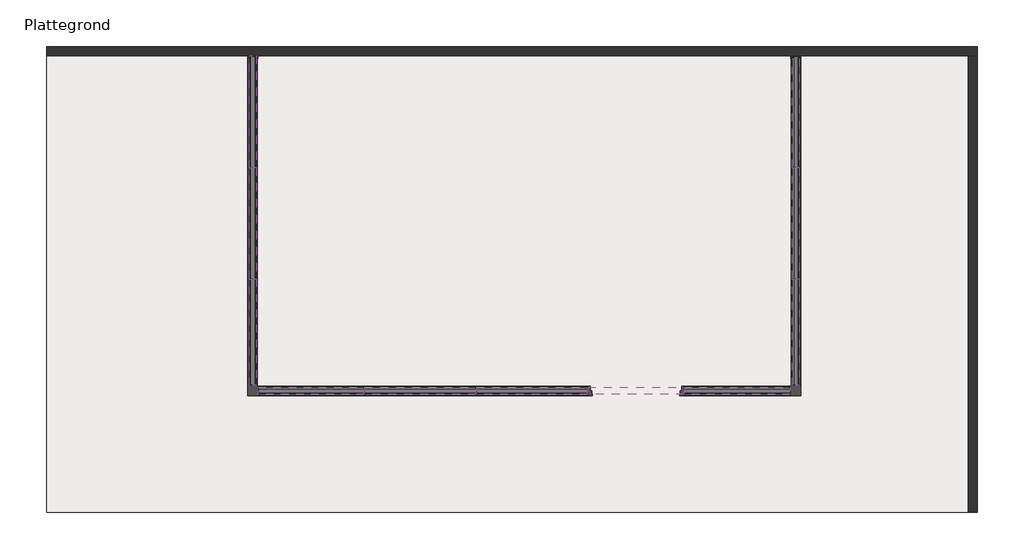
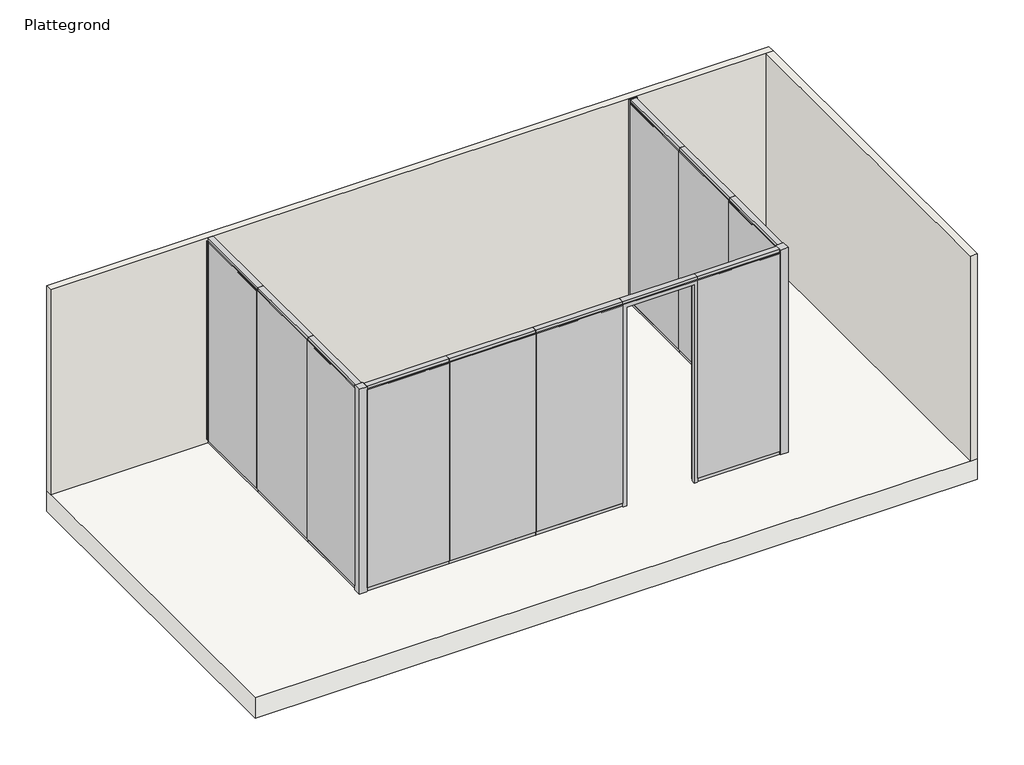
# One storey, incomplete: 26 members, 10 plates, 2 walls, 1 slab.
"""IFC4 building model written with IfcOpenShell, lengths in millimetres."""

from ifc_helpers import new_model, si_unit, frame, origin, origin_with_axes, place, context, project, spatial, polyline, outline, extrude, faceted_brep, transform, mapped, element, save
from components import member_d9187866, l_corner_mullion_85c57a4c, rectangular_mullion_8564558c, rectangular_mullion_b505394f, rectangular_mullion_e6aad3cd, rectangular_mullion_594e154f, rectangular_mullion_8b4171a3, rectangular_mullion_1f58b8ce, rectangular_mullion_43599745, rectangular_mullion_d537f7af, plate_3d1d3679, plate_2d0721b2, plate_4faec389

model = new_model("IFC4")

# Units and contexts
model_context = context("Model", 3, world=origin())
ifc_project = project(units=[si_unit("LENGTHUNIT", "METRE", prefix="MILLI")], contexts=[model_context])

# Site, building, storey
site = spatial("IfcSite", under=ifc_project)
building = spatial("IfcBuilding", under=site)
storey = spatial("IfcBuildingStorey", under=building, Name="Plattegrond", Elevation=0.0)

# Members
placement = place(None, origin())
member_shape = member_d9187866(model_context)
element("IfcMember", 1, ObjectType="32_IM_005_WDI_deurkozijn : 32_IM_005_WDI_deurkozijn", at=placement, inside=storey, context=model_context, shape_type="MappedRepresentation", body=[
    mapped(member_shape, transform((6171.9771241, 1527.5863222, 1480.0), x_axis=(0.0, 0.0, -1.0), y_axis=(1.0, 0.0, 0.0), z_axis=(0.0, -1.0, 0.0))),
])
l_corner_mullion_shape = l_corner_mullion_85c57a4c(model_context)
element("IfcMember", 2, ObjectType="L Corner Mullion : 22_IM_VNS_54_HOEK", at=placement, inside=storey, context=model_context, shape_type="MappedRepresentation", body=[
    mapped(l_corner_mullion_shape, transform((2053.9771241, 1527.5863222, 0.0), x_axis=(0.0, -1.0, 0.0), y_axis=(-1.0, 0.0, 0.0), z_axis=(0.0, 0.0, -1.0))),
])
element("IfcMember", 3, ObjectType="L Corner Mullion : 22_IM_VNS_54_HOEK", at=placement, inside=storey, context=model_context, shape_type="MappedRepresentation", body=[
    mapped(l_corner_mullion_shape, transform((7889.9771241, 1527.5863222, 0.0), x_axis=(1.0, 0.0, 0.0), y_axis=(0.0, -1.0, 0.0), z_axis=(0.0, 0.0, -1.0))),
])
rectangular_mullion_shape = rectangular_mullion_8564558c(model_context)
element("IfcMember", 4, ObjectType="Rectangular Mullion : 22_IM_VNS_DET1_boven", at=placement, inside=storey, context=model_context, shape_type="MappedRepresentation", body=[
    mapped(rectangular_mullion_shape, transform((2053.9771241, 3927.5863222, 3000.0), x_axis=(0.0, 0.0, 1.0), y_axis=(-1.0, 0.0, 0.0), z_axis=(0.0, -1.0, 0.0))),
])
element("IfcMember", 5, ObjectType="Rectangular Mullion : 22_IM_VNS_DET1_boven", at=placement, inside=storey, context=model_context, shape_type="MappedRepresentation", body=[
    mapped(rectangular_mullion_shape, transform((2053.9771241, 2727.5863222, 3000.0), x_axis=(0.0, 0.0, 1.0), y_axis=(-1.0, 0.0, 0.0), z_axis=(0.0, -1.0, 0.0))),
])
element("IfcMember", 6, ObjectType="Rectangular Mullion : 22_IM_VNS_DET1_boven", at=placement, inside=storey, context=model_context, shape_type="MappedRepresentation", body=[
    mapped(rectangular_mullion_shape, transform((4453.9771241, 1527.5863222, 3000.0), x_axis=(0.0, 0.0, 1.0), y_axis=(0.0, -1.0, 0.0), z_axis=(1.0, 0.0, 0.0))),
])
element("IfcMember", 7, ObjectType="Rectangular Mullion : 22_IM_VNS_DET1_boven", at=placement, inside=storey, context=model_context, shape_type="MappedRepresentation", body=[
    mapped(rectangular_mullion_shape, transform((5653.9771241, 1527.5863222, 3000.0), x_axis=(0.0, 0.0, 1.0), y_axis=(0.0, -1.0, 0.0), z_axis=(1.0, 0.0, 0.0))),
])
element("IfcMember", 8, ObjectType="Rectangular Mullion : 22_IM_VNS_DET1_boven", at=placement, inside=storey, context=model_context, shape_type="MappedRepresentation", body=[
    mapped(rectangular_mullion_shape, transform((7889.9771241, 3927.5863222, 3000.0), x_axis=(0.0, 0.0, 1.0), y_axis=(1.0, 0.0, 0.0), z_axis=(0.0, 1.0, 0.0))),
])
rectangular_mullion_2_shape = rectangular_mullion_b505394f(model_context)
element("IfcMember", 9, ObjectType="Rectangular Mullion : 22_IM_VNS_DET2_onder", at=placement, inside=storey, context=model_context, shape_type="MappedRepresentation", body=[
    mapped(rectangular_mullion_2_shape, transform((2053.9771241, 5127.5863222, 0.0), x_axis=(0.0, 0.0, -1.0), y_axis=(-1.0, 0.0, 0.0), z_axis=(0.0, 1.0, 0.0))),
])
element("IfcMember", 10, ObjectType="Rectangular Mullion : 22_IM_VNS_DET2_onder", at=placement, inside=storey, context=model_context, shape_type="MappedRepresentation", body=[
    mapped(rectangular_mullion_2_shape, transform((7889.9771241, 1527.5863222, 0.0), x_axis=(0.0, 0.0, -1.0), y_axis=(1.0, 0.0, 0.0), z_axis=(0.0, -1.0, 0.0))),
])
element("IfcMember", 11, ObjectType="Rectangular Mullion : 22_IM_VNS_DET2_onder", at=placement, inside=storey, context=model_context, shape_type="MappedRepresentation", body=[
    mapped(rectangular_mullion_2_shape, transform((2053.9771241, 3927.5863222, 0.0), x_axis=(0.0, 0.0, -1.0), y_axis=(-1.0, 0.0, 0.0), z_axis=(0.0, 1.0, 0.0))),
])
element("IfcMember", 12, ObjectType="Rectangular Mullion : 22_IM_VNS_DET2_onder", at=placement, inside=storey, context=model_context, shape_type="MappedRepresentation", body=[
    mapped(rectangular_mullion_2_shape, transform((3253.9771241, 1527.5863222, 0.0), x_axis=(0.0, 0.0, -1.0), y_axis=(0.0, -1.0, 0.0), z_axis=(-1.0, 0.0, 0.0))),
])
element("IfcMember", 13, ObjectType="Rectangular Mullion : 22_IM_VNS_DET2_onder", at=placement, inside=storey, context=model_context, shape_type="MappedRepresentation", body=[
    mapped(rectangular_mullion_2_shape, transform((7889.9771241, 2727.5863222, 0.0), x_axis=(0.0, 0.0, -1.0), y_axis=(1.0, 0.0, 0.0), z_axis=(0.0, -1.0, 0.0))),
])
rectangular_mullion_3_shape = rectangular_mullion_e6aad3cd(model_context)
element("IfcMember", 14, ObjectType="Rectangular Mullion : 22_IM_VNS_54_MAS_sp", at=placement, inside=storey, context=model_context, shape_type="MappedRepresentation", body=[
    mapped(rectangular_mullion_3_shape, transform((2053.9771241, 5127.5863222, 2960.0), x_axis=(0.0, 1.0, 0.0), y_axis=(-1.0, 0.0, 0.0), z_axis=(0.0, 0.0, 1.0))),
])
rectangular_mullion_4_shape = rectangular_mullion_594e154f(model_context)
element("IfcMember", 15, ObjectType="Rectangular Mullion : 22_IM_VNS_DET1_boven", at=placement, inside=storey, context=model_context, shape_type="MappedRepresentation", body=[
    mapped(rectangular_mullion_4_shape, transform((6689.9771241, 1527.5863222, 3000.0), x_axis=(0.0, 0.0, 1.0), y_axis=(0.0, -1.0, 0.0), z_axis=(1.0, 0.0, 0.0))),
])
element("IfcMember", 16, ObjectType="Rectangular Mullion : 22_IM_VNS_DET2_onder", at=placement, inside=storey, context=model_context, shape_type="MappedRepresentation", body=[
    mapped(rectangular_mullion_2_shape, transform((4453.9771241, 1527.5863222, 0.0), x_axis=(0.0, 0.0, -1.0), y_axis=(0.0, -1.0, 0.0), z_axis=(-1.0, 0.0, 0.0))),
])
rectangular_mullion_5_shape = rectangular_mullion_8b4171a3(model_context)
element("IfcMember", 17, ObjectType="Rectangular Mullion : 22_IM_VNS_DET1_boven", at=placement, inside=storey, context=model_context, shape_type="MappedRepresentation", body=[
    mapped(rectangular_mullion_5_shape, transform((7889.9771241, 5095.5863222, 3000.0), x_axis=(0.0, 0.0, 1.0), y_axis=(1.0, 0.0, 0.0), z_axis=(0.0, 1.0, 0.0))),
])
element("IfcMember", 18, ObjectType="Rectangular Mullion : 22_IM_VNS_DET2_onder", at=placement, inside=storey, context=model_context, shape_type="MappedRepresentation", body=[
    mapped(rectangular_mullion_2_shape, transform((7889.9771241, 3927.5863222, 0.0), x_axis=(0.0, 0.0, -1.0), y_axis=(1.0, 0.0, 0.0), z_axis=(0.0, -1.0, 0.0))),
])
rectangular_mullion_6_shape = rectangular_mullion_1f58b8ce(model_context)
element("IfcMember", 19, ObjectType="Rectangular Mullion : 22_IM_VNS_54_MAS", at=placement, inside=storey, context=model_context, shape_type="MappedRepresentation", body=[
    mapped(rectangular_mullion_6_shape, transform((7889.9771241, 5127.5863222, 58.0), x_axis=(0.0, 1.0, 0.0), y_axis=(1.0, 0.0, 0.0), z_axis=(0.0, 0.0, -1.0))),
])
rectangular_mullion_7_shape = rectangular_mullion_43599745(model_context)
element("IfcMember", 20, ObjectType="Rectangular Mullion : 22_IM_VNS_DET1_boven", at=placement, inside=storey, context=model_context, shape_type="MappedRepresentation", body=[
    mapped(rectangular_mullion_7_shape, transform((2053.9771241, 1587.5863222, 3000.0), x_axis=(0.0, 0.0, 1.0), y_axis=(-1.0, 0.0, 0.0), z_axis=(0.0, -1.0, 0.0))),
])
element("IfcMember", 21, ObjectType="Rectangular Mullion : 22_IM_VNS_DET1_boven", at=placement, inside=storey, context=model_context, shape_type="MappedRepresentation", body=[
    mapped(rectangular_mullion_7_shape, transform((7829.9771241, 1527.5863222, 3000.0), x_axis=(0.0, 0.0, 1.0), y_axis=(0.0, -1.0, 0.0), z_axis=(1.0, 0.0, 0.0))),
])
element("IfcMember", 22, ObjectType="Rectangular Mullion : 22_IM_VNS_DET1_boven", at=placement, inside=storey, context=model_context, shape_type="MappedRepresentation", body=[
    mapped(rectangular_mullion_7_shape, transform((3253.9771241, 1527.5863222, 3000.0), x_axis=(0.0, 0.0, 1.0), y_axis=(0.0, -1.0, 0.0), z_axis=(1.0, 0.0, 0.0))),
])
element("IfcMember", 23, ObjectType="Rectangular Mullion : 22_IM_VNS_DET1_boven", at=placement, inside=storey, context=model_context, shape_type="MappedRepresentation", body=[
    mapped(rectangular_mullion_7_shape, transform((7889.9771241, 2727.5863222, 3000.0), x_axis=(0.0, 0.0, 1.0), y_axis=(1.0, 0.0, 0.0), z_axis=(0.0, 1.0, 0.0))),
])
rectangular_mullion_8_shape = rectangular_mullion_d537f7af(model_context)
element("IfcMember", 24, ObjectType="Rectangular Mullion : 22_IM_VNS_DET2_onder", at=placement, inside=storey, context=model_context, shape_type="MappedRepresentation", body=[
    mapped(rectangular_mullion_8_shape, transform((2053.9771241, 2727.5863222, 0.0), x_axis=(0.0, 0.0, -1.0), y_axis=(-1.0, 0.0, 0.0), z_axis=(0.0, 1.0, 0.0))),
])
element("IfcMember", 25, ObjectType="Rectangular Mullion : 22_IM_VNS_DET2_onder", at=placement, inside=storey, context=model_context, shape_type="MappedRepresentation", body=[
    mapped(rectangular_mullion_8_shape, transform((2113.9771241, 1527.5863222, 0.0), x_axis=(0.0, 0.0, -1.0), y_axis=(0.0, -1.0, 0.0), z_axis=(-1.0, 0.0, 0.0))),
])
element("IfcMember", 26, ObjectType="Rectangular Mullion : 22_IM_VNS_DET2_onder", at=placement, inside=storey, context=model_context, shape_type="MappedRepresentation", body=[
    mapped(rectangular_mullion_8_shape, transform((6689.9771241, 1527.5863222, 0.0), x_axis=(0.0, 0.0, -1.0), y_axis=(0.0, -1.0, 0.0), z_axis=(-1.0, 0.0, 0.0))),
])

# Plates
plate_shape = plate_3d1d3679(model_context)
element("IfcPlate", 27, ObjectType="22_IM_VNS_wandpaneel_dicht : 22_IM_VNS_54_AA", at=placement, inside=storey, context=model_context, shape_type="MappedRepresentation", body=[
    mapped(plate_shape, transform((2053.9771241, 4521.5863222, 58.0), x_axis=(0.0, -1.0, 0.0), y_axis=(1.0, 0.0, 0.0), z_axis=(0.0, 0.0, 1.0))),
])
element("IfcPlate", 28, ObjectType="22_IM_VNS_wandpaneel_dicht : 22_IM_VNS_54_AA", at=placement, inside=storey, context=model_context, shape_type="MappedRepresentation", body=[
    mapped(plate_shape, transform((7889.9771241, 4521.5863222, 58.0), x_axis=(0.0, 1.0, 0.0), y_axis=(-1.0, 0.0, 0.0), z_axis=(0.0, 0.0, 1.0))),
])
plate_2_shape = plate_2d0721b2(model_context)
element("IfcPlate", 29, ObjectType="22_IM_VNS_wandpaneel_dicht : 22_IM_VNS_54_AA", at=placement, inside=storey, context=model_context, shape_type="MappedRepresentation", body=[
    mapped(plate_2_shape, transform((2053.9771241, 3327.5863222, 58.0), x_axis=(0.0, -1.0, 0.0), y_axis=(1.0, 0.0, 0.0), z_axis=(0.0, 0.0, 1.0))),
])
element("IfcPlate", 30, ObjectType="22_IM_VNS_wandpaneel_dicht : 22_IM_VNS_54_AA", at=placement, inside=storey, context=model_context, shape_type="MappedRepresentation", body=[
    mapped(plate_2_shape, transform((3853.9771241, 1527.5863222, 58.0), x_axis=(1.0, 0.0, 0.0), y_axis=(0.0, 1.0, 0.0), z_axis=(0.0, 0.0, 1.0))),
])
element("IfcPlate", 31, ObjectType="22_IM_VNS_wandpaneel_dicht : 22_IM_VNS_54_AA", at=placement, inside=storey, context=model_context, shape_type="MappedRepresentation", body=[
    mapped(plate_2_shape, transform((5053.9771241, 1527.5863222, 58.0), x_axis=(1.0, 0.0, 0.0), y_axis=(0.0, 1.0, 0.0), z_axis=(0.0, 0.0, 1.0))),
])
element("IfcPlate", 32, ObjectType="22_IM_VNS_wandpaneel_dicht : 22_IM_VNS_54_AA", at=placement, inside=storey, context=model_context, shape_type="MappedRepresentation", body=[
    mapped(plate_2_shape, transform((7889.9771241, 3327.5863222, 58.0), x_axis=(0.0, 1.0, 0.0), y_axis=(-1.0, 0.0, 0.0), z_axis=(0.0, 0.0, 1.0))),
])
plate_3_shape = plate_4faec389(model_context)
element("IfcPlate", 33, ObjectType="22_IM_VNS_wandpaneel_dicht : 22_IM_VNS_54_AA", at=placement, inside=storey, context=model_context, shape_type="MappedRepresentation", body=[
    mapped(plate_3_shape, transform((2053.9771241, 2157.5863222, 58.0), x_axis=(0.0, -1.0, 0.0), y_axis=(1.0, 0.0, 0.0), z_axis=(0.0, 0.0, 1.0))),
])
element("IfcPlate", 34, ObjectType="22_IM_VNS_wandpaneel_dicht : 22_IM_VNS_54_AA", at=placement, inside=storey, context=model_context, shape_type="MappedRepresentation", body=[
    mapped(plate_3_shape, transform((2683.9771241, 1527.5863222, 58.0), x_axis=(1.0, 0.0, 0.0), y_axis=(0.0, 1.0, 0.0), z_axis=(0.0, 0.0, 1.0))),
])
element("IfcPlate", 35, ObjectType="22_IM_VNS_wandpaneel_dicht : 22_IM_VNS_54_AA", at=placement, inside=storey, context=model_context, shape_type="MappedRepresentation", body=[
    mapped(plate_3_shape, transform((7259.9771241, 1527.5863222, 58.0), x_axis=(1.0, 0.0, 0.0), y_axis=(0.0, 1.0, 0.0), z_axis=(0.0, 0.0, 1.0))),
])
element("IfcPlate", 36, ObjectType="22_IM_VNS_wandpaneel_dicht : 22_IM_VNS_54_AA", at=placement, inside=storey, context=model_context, shape_type="MappedRepresentation", body=[
    mapped(plate_3_shape, transform((7889.9771241, 2157.5863222, 58.0), x_axis=(0.0, 1.0, 0.0), y_axis=(-1.0, 0.0, 0.0), z_axis=(0.0, 0.0, 1.0))),
])

# Slab
element("IfcSlab", 37, ObjectType="23_FL_generiek 300", at=placement, inside=storey, context=model_context, shape_type="SweptSolid", body=[
    extrude(outline(polyline([(9839.9353409, 227.5863222), (-160.0646591, 227.5863222), (-160.0646591, 5227.5863222), (9839.9353409, 5227.5863222), (9839.9353409, 227.5863222)])), frame((0.0, 0.0, -300.0), z_axis=(0.0, 0.0, 1.0), x_axis=(1.0, 0.0, 0.0)), (0.0, 0.0, 1.0), 300.0),
])

# Walls
element("IfcWall", 38, ObjectType="20_WA_ontwerpwand 100", at=placement, inside=storey, context=model_context, shape_type="Brep", body=[
    faceted_brep([(-160.0646591, 5127.5863222, 0.0), (9739.9353409, 5127.5863222, 0.0), (9839.9353409, 5127.5863222, 0.0), (9839.9353409, 5127.5863222, 3000.0), (9739.9353409, 5127.5863222, 3000.0), (-160.0646591, 5127.5863222, 3000.0), (-160.0646591, 5227.5863222, 0.0), (-160.0646591, 5227.5863222, 3000.0), (9839.9353409, 5227.5863222, 3000.0), (9839.9353409, 5227.5863222, 0.0)], [[[0, 1, 2, 3, 4, 5]], [[6, 7, 8, 9]], [[2, 1, 0, 6, 9]], [[5, 4, 3, 8, 7]], [[0, 5, 7, 6]], [[3, 2, 9, 8]]]),
])
element("IfcWall", 39, ObjectType="20_WA_ontwerpwand 100", at=placement, inside=storey, context=model_context, shape_type="SweptSolid", body=[
    extrude(outline(polyline([(9739.9353409, 227.5863222), (9739.9353409, 5127.5863222), (9839.9353409, 5127.5863222), (9839.9353409, 227.5863222), (9739.9353409, 227.5863222)])), origin_with_axes(), (0.0, 0.0, 1.0), 3000.0),
])

save(model, "model.ifc")
